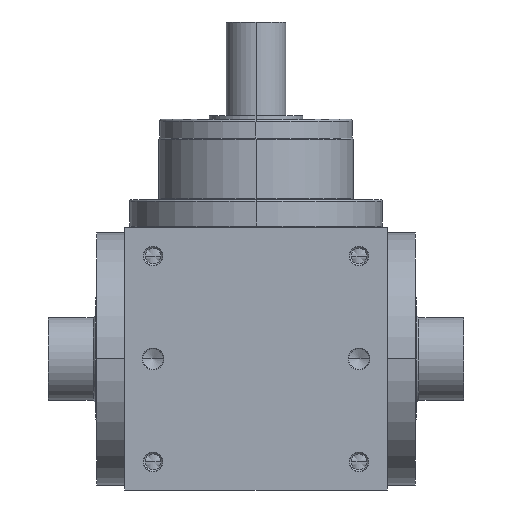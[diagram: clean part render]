
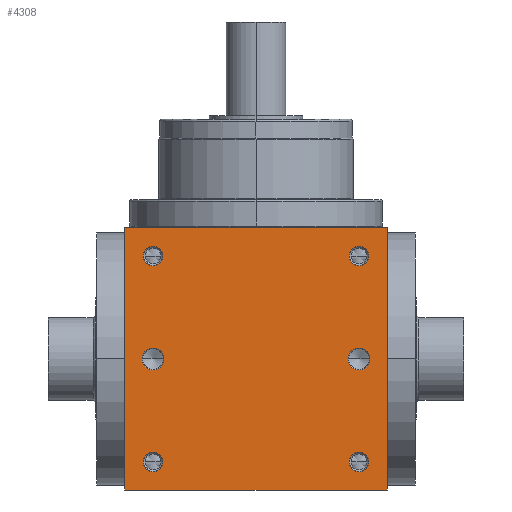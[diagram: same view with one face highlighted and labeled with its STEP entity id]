
A CAD part, front view. The second image highlights one B-rep face of the part: STEP entity #4308.
In plain terms, the highlighted planar face has unit normal (0, -1, 0).
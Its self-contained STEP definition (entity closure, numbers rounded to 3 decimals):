
#5=DIRECTION('',(1.,0.,0.));
#6=VECTOR('',#5,140.);
#7=CARTESIAN_POINT('',(-70.,-70.,-70.));
#8=LINE('',#7,#6);
#155=DIRECTION('',(0.,0.,1.));
#156=VECTOR('',#155,140.);
#157=CARTESIAN_POINT('',(70.,-70.,-70.));
#158=LINE('',#157,#156);
#209=DIRECTION('',(0.,0.,1.));
#210=VECTOR('',#209,140.);
#211=CARTESIAN_POINT('',(-70.,-70.,-70.));
#212=LINE('',#211,#210);
#213=CARTESIAN_POINT('',(55.,-70.,55.));
#214=DIRECTION('',(0.,1.,0.));
#215=DIRECTION('',(-1.,0.,0.));
#216=AXIS2_PLACEMENT_3D('',#213,#214,#215);
#218=CARTESIAN_POINT('',(55.,-70.,55.));
#219=DIRECTION('',(0.,1.,0.));
#220=DIRECTION('',(1.,0.,0.));
#221=AXIS2_PLACEMENT_3D('',#218,#219,#220);
#223=CARTESIAN_POINT('',(-55.,-70.,55.));
#224=DIRECTION('',(0.,1.,0.));
#225=DIRECTION('',(-1.,0.,0.));
#226=AXIS2_PLACEMENT_3D('',#223,#224,#225);
#228=CARTESIAN_POINT('',(-55.,-70.,55.));
#229=DIRECTION('',(0.,1.,0.));
#230=DIRECTION('',(1.,0.,0.));
#231=AXIS2_PLACEMENT_3D('',#228,#229,#230);
#233=CARTESIAN_POINT('',(55.,-70.,-55.));
#234=DIRECTION('',(0.,1.,0.));
#235=DIRECTION('',(-1.,0.,0.));
#236=AXIS2_PLACEMENT_3D('',#233,#234,#235);
#238=CARTESIAN_POINT('',(55.,-70.,-55.));
#239=DIRECTION('',(0.,1.,0.));
#240=DIRECTION('',(1.,0.,0.));
#241=AXIS2_PLACEMENT_3D('',#238,#239,#240);
#243=CARTESIAN_POINT('',(-55.,-70.,-55.));
#244=DIRECTION('',(0.,1.,0.));
#245=DIRECTION('',(-1.,0.,0.));
#246=AXIS2_PLACEMENT_3D('',#243,#244,#245);
#248=CARTESIAN_POINT('',(-55.,-70.,-55.));
#249=DIRECTION('',(0.,1.,0.));
#250=DIRECTION('',(1.,0.,0.));
#251=AXIS2_PLACEMENT_3D('',#248,#249,#250);
#253=CARTESIAN_POINT('',(-55.,-70.,0.));
#254=DIRECTION('',(0.,1.,0.));
#255=DIRECTION('',(1.,0.,0.));
#256=AXIS2_PLACEMENT_3D('',#253,#254,#255);
#258=CARTESIAN_POINT('',(-55.,-70.,0.));
#259=DIRECTION('',(0.,1.,0.));
#260=DIRECTION('',(-1.,0.,0.));
#261=AXIS2_PLACEMENT_3D('',#258,#259,#260);
#263=CARTESIAN_POINT('',(55.,-70.,0.));
#264=DIRECTION('',(0.,1.,0.));
#265=DIRECTION('',(1.,0.,0.));
#266=AXIS2_PLACEMENT_3D('',#263,#264,#265);
#268=CARTESIAN_POINT('',(55.,-70.,0.));
#269=DIRECTION('',(0.,1.,0.));
#270=DIRECTION('',(-1.,0.,0.));
#271=AXIS2_PLACEMENT_3D('',#268,#269,#270);
#285=DIRECTION('',(1.,0.,0.));
#286=VECTOR('',#285,140.);
#287=CARTESIAN_POINT('',(-70.,-70.,70.));
#288=LINE('',#287,#286);
#3474=CARTESIAN_POINT('',(-70.,-70.,-70.));
#3476=VERTEX_POINT('',#3474);
#3477=CARTESIAN_POINT('',(70.,-70.,-70.));
#3478=VERTEX_POINT('',#3477);
#3482=CARTESIAN_POINT('',(-70.,-70.,70.));
#3484=VERTEX_POINT('',#3482);
#3485=CARTESIAN_POINT('',(70.,-70.,70.));
#3486=VERTEX_POINT('',#3485);
#3641=CARTESIAN_POINT('',(49.75,-70.,55.));
#3642=CARTESIAN_POINT('',(60.25,-70.,55.));
#3643=VERTEX_POINT('',#3641);
#3644=VERTEX_POINT('',#3642);
#3649=CARTESIAN_POINT('',(-60.25,-70.,55.));
#3650=CARTESIAN_POINT('',(-49.75,-70.,55.));
#3651=VERTEX_POINT('',#3649);
#3652=VERTEX_POINT('',#3650);
#3657=CARTESIAN_POINT('',(49.75,-70.,-55.));
#3658=CARTESIAN_POINT('',(60.25,-70.,-55.));
#3659=VERTEX_POINT('',#3657);
#3660=VERTEX_POINT('',#3658);
#3665=CARTESIAN_POINT('',(-60.25,-70.,-55.));
#3666=CARTESIAN_POINT('',(-49.75,-70.,-55.));
#3667=VERTEX_POINT('',#3665);
#3668=VERTEX_POINT('',#3666);
#3989=CARTESIAN_POINT('',(-49.15,-70.,
0.));
#3990=CARTESIAN_POINT('',(-60.85,-70.,
0.));
#3991=VERTEX_POINT('',#3989);
#3992=VERTEX_POINT('',#3990);
#3997=CARTESIAN_POINT('',(60.85,-70.,0.));
#3998=CARTESIAN_POINT('',(49.15,-70.,0.));
#3999=VERTEX_POINT('',#3997);
#4000=VERTEX_POINT('',#3998);
#4260=CARTESIAN_POINT('',(-70.,-70.,-70.));
#4261=DIRECTION('',(0.,-1.,0.));
#4262=DIRECTION('',(1.,0.,0.));
#4263=AXIS2_PLACEMENT_3D('',#4260,#4261,#4262);
#4264=PLANE('',#4263);
#4265=ORIENTED_EDGE('',*,*,#4100,.F.);
#4266=ORIENTED_EDGE('',*,*,#4143,.T.);
#4268=ORIENTED_EDGE('',*,*,#4267,.T.);
#4269=ORIENTED_EDGE('',*,*,#4222,.F.);
#4270=EDGE_LOOP('',(#4265,#4266,#4268,#4269));
#4271=FACE_OUTER_BOUND('',#4270,.F.);
#4273=ORIENTED_EDGE('',*,*,#4272,.F.);
#4275=ORIENTED_EDGE('',*,*,#4274,.F.);
#4276=EDGE_LOOP('',(#4273,#4275));
#4277=FACE_BOUND('',#4276,.F.);
#4279=ORIENTED_EDGE('',*,*,#4278,.F.);
#4281=ORIENTED_EDGE('',*,*,#4280,.F.);
#4282=EDGE_LOOP('',(#4279,#4281));
#4283=FACE_BOUND('',#4282,.F.);
#4285=ORIENTED_EDGE('',*,*,#4284,.F.);
#4287=ORIENTED_EDGE('',*,*,#4286,.F.);
#4288=EDGE_LOOP('',(#4285,#4287));
#4289=FACE_BOUND('',#4288,.F.);
#4291=ORIENTED_EDGE('',*,*,#4290,.F.);
#4293=ORIENTED_EDGE('',*,*,#4292,.F.);
#4294=EDGE_LOOP('',(#4291,#4293));
#4295=FACE_BOUND('',#4294,.F.);
#4297=ORIENTED_EDGE('',*,*,#4296,.F.);
#4299=ORIENTED_EDGE('',*,*,#4298,.F.);
#4300=EDGE_LOOP('',(#4297,#4299));
#4301=FACE_BOUND('',#4300,.F.);
#4303=ORIENTED_EDGE('',*,*,#4302,.F.);
#4305=ORIENTED_EDGE('',*,*,#4304,.F.);
#4306=EDGE_LOOP('',(#4303,#4305));
#4307=FACE_BOUND('',#4306,.F.);
#4308=ADVANCED_FACE('',(#4271,#4277,#4283,#4289,#4295,#4301,#4307),#4264,.T.);
#217=CIRCLE('',#216,5.25);
#222=CIRCLE('',#221,5.25);
#227=CIRCLE('',#226,5.25);
#232=CIRCLE('',#231,5.25);
#237=CIRCLE('',#236,5.25);
#242=CIRCLE('',#241,5.25);
#247=CIRCLE('',#246,5.25);
#252=CIRCLE('',#251,5.25);
#257=CIRCLE('',#256,5.85);
#262=CIRCLE('',#261,5.85);
#267=CIRCLE('',#266,5.85);
#272=CIRCLE('',#271,5.85);
#4100=EDGE_CURVE('',#3476,#3478,#8,.T.);
#4143=EDGE_CURVE('',#3476,#3484,#212,.T.);
#4222=EDGE_CURVE('',#3478,#3486,#158,.T.);
#4267=EDGE_CURVE('',#3484,#3486,#288,.T.);
#4272=EDGE_CURVE('',#3643,#3644,#217,.T.);
#4274=EDGE_CURVE('',#3644,#3643,#222,.T.);
#4278=EDGE_CURVE('',#3651,#3652,#227,.T.);
#4280=EDGE_CURVE('',#3652,#3651,#232,.T.);
#4284=EDGE_CURVE('',#3659,#3660,#237,.T.);
#4286=EDGE_CURVE('',#3660,#3659,#242,.T.);
#4290=EDGE_CURVE('',#3667,#3668,#247,.T.);
#4292=EDGE_CURVE('',#3668,#3667,#252,.T.);
#4296=EDGE_CURVE('',#3991,#3992,#257,.T.);
#4298=EDGE_CURVE('',#3992,#3991,#262,.T.);
#4302=EDGE_CURVE('',#3999,#4000,#267,.T.);
#4304=EDGE_CURVE('',#4000,#3999,#272,.T.);
